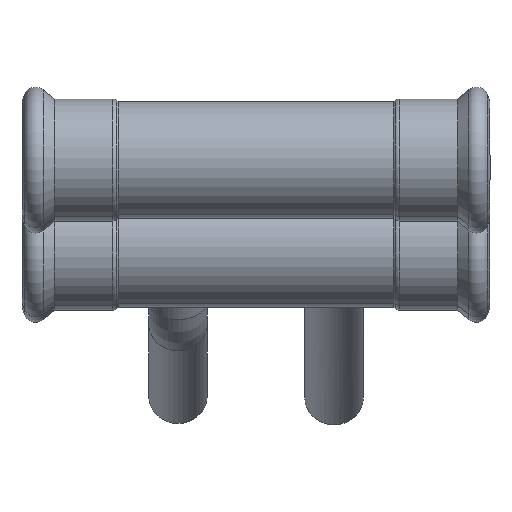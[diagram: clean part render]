
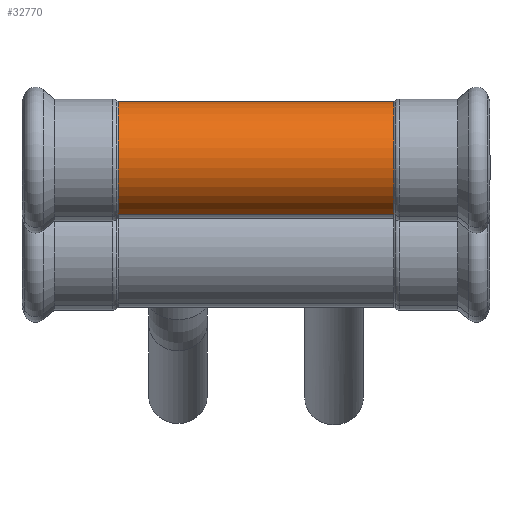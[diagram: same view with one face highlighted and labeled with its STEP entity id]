
A CAD part, top view. The second image highlights one B-rep face of the part: STEP entity #32770.
In plain terms, the highlighted cylindrical face has radius 15 mm (diameter 30 mm), a partial arc.
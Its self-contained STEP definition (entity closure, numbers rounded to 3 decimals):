
#31530=CARTESIAN_POINT('',(5.729,179.196,0.));
#31540=VERTEX_POINT('',#31530);
#31570=CARTESIAN_POINT('',(5.729,194.196,0.));
#31580=DIRECTION('',(1.,0.,0.));
#31590=DIRECTION('',(0.,-1.,0.));
#31600=AXIS2_PLACEMENT_3D('',#31570,#31580,#31590);
#31610=CIRCLE('',#31600,15.);
#31620=CARTESIAN_POINT('',(5.729,209.196,
0.));
#31630=VERTEX_POINT('',#31620);
#31640=EDGE_CURVE('',#31630,#31540,#31610,.T.);
#32460=CARTESIAN_POINT('',(-29.661,194.196,0.));
#32470=DIRECTION('',(-1.,0.,0.));
#32480=DIRECTION('',(0.,1.,0.));
#32490=AXIS2_PLACEMENT_3D('',#32460,#32470,#32480);
#32500=CYLINDRICAL_SURFACE('',#32490,15.);
#32510=CARTESIAN_POINT('',(-29.661,209.196,0.));
#32520=DIRECTION('',(-1.,0.,0.));
#32530=VECTOR('',#32520,1.);
#32540=LINE('',#32510,#32530);
#32550=CARTESIAN_POINT('',(-65.051,209.196,0.));
#32560=VERTEX_POINT('',#32550);
#32570=EDGE_CURVE('',#31630,#32560,#32540,.T.);
#32580=ORIENTED_EDGE('',*,*,#32570,.T.);
#32590=ORIENTED_EDGE('',*,*,#31640,.F.);
#32600=CARTESIAN_POINT('',(-29.661,179.196,
0.));
#32610=DIRECTION('',(-1.,0.,0.));
#32620=VECTOR('',#32610,1.);
#32630=LINE('',#32600,#32620);
#32640=CARTESIAN_POINT('',(-65.051,179.196,
0.));
#32650=VERTEX_POINT('',#32640);
#32660=EDGE_CURVE('',#31540,#32650,#32630,.T.);
#32670=ORIENTED_EDGE('',*,*,#32660,.F.);
#32680=CARTESIAN_POINT('',(-65.051,194.196,0.));
#32690=DIRECTION('',(1.,0.,0.));
#32700=DIRECTION('',(0.,-1.,0.));
#32710=AXIS2_PLACEMENT_3D('',#32680,#32690,#32700);
#32720=CIRCLE('',#32710,15.);
#32730=EDGE_CURVE('',#32560,#32650,#32720,.T.);
#32740=ORIENTED_EDGE('',*,*,#32730,.T.);
#32750=EDGE_LOOP('',(#32740,#32670,#32590,#32580));
#32760=FACE_OUTER_BOUND('',#32750,.T.);
#32770=ADVANCED_FACE('',(#32760),#32500,.T.);
